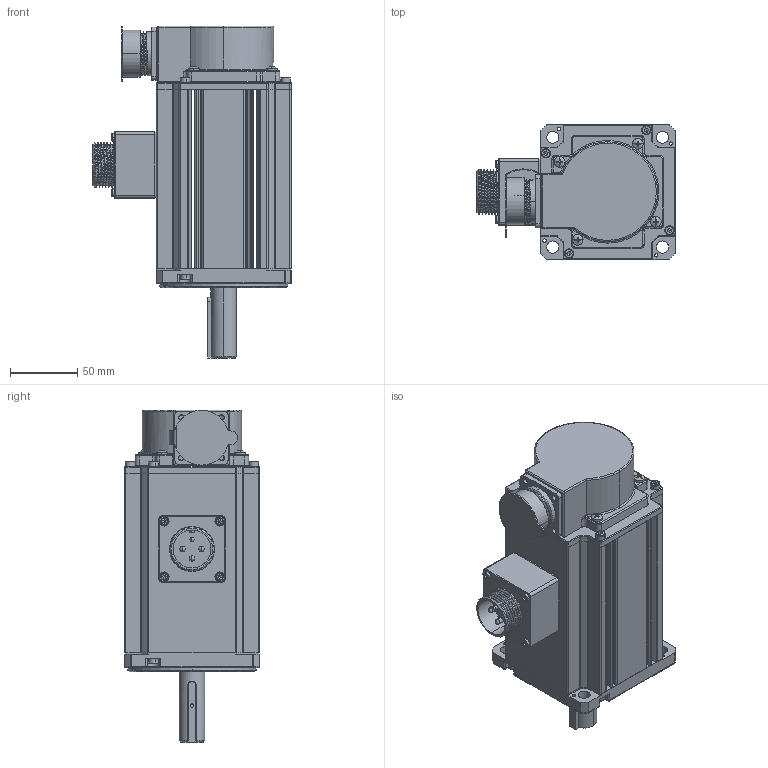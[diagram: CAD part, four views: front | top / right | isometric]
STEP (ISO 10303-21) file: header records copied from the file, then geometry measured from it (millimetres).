
FILE_DESCRIPTION (( 'STEP AP203' ), '1' );
FILE_NAME ('WF100ST-Z1M04830总装-YD28+轴19×55.STEP', '2024-01-30T08:51:23', ( 'lvbing' ), ( 'WG' ), 'SwSTEP 2.0', 'SolidWorks 2018', '' );
FILE_SCHEMA (( 'CONFIG_CONTROL_DESIGN' ));
Length unit declared in the file: millimetre
Products named in the file (2): WF100ST-Z1M04830总装-YD28+轴19×55
Bounding box: 147 x 100 x 246 mm (x, y, z)
Surface area: 136831.7 mm2 (no closed solid volume)
Topology: 0 solids, 57 shells, 980 faces, 2759 edges, 1803 vertices
Faces by surface type: cylinder 424, plane 320, torus 138, cone 49, bspline 31, sphere 18
Entity records: 34549 total; most frequent: CARTESIAN_POINT 9248, DIRECTION 5672, ORIENTED_EDGE 4683, EDGE_CURVE 2714, AXIS2_PLACEMENT_3D 2193, VERTEX_POINT 1795, LINE 1286, VECTOR 1286
